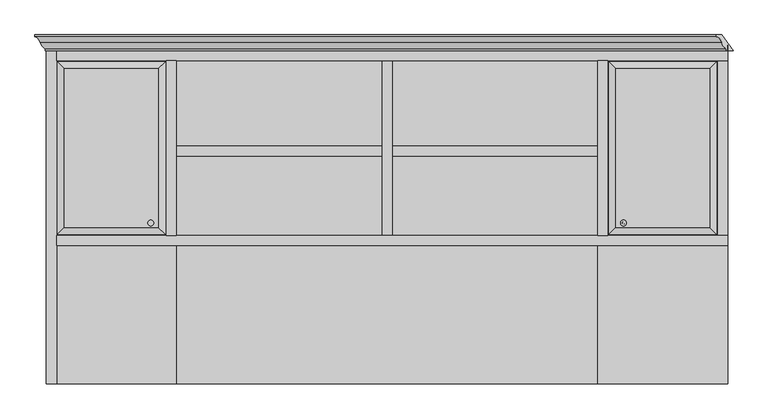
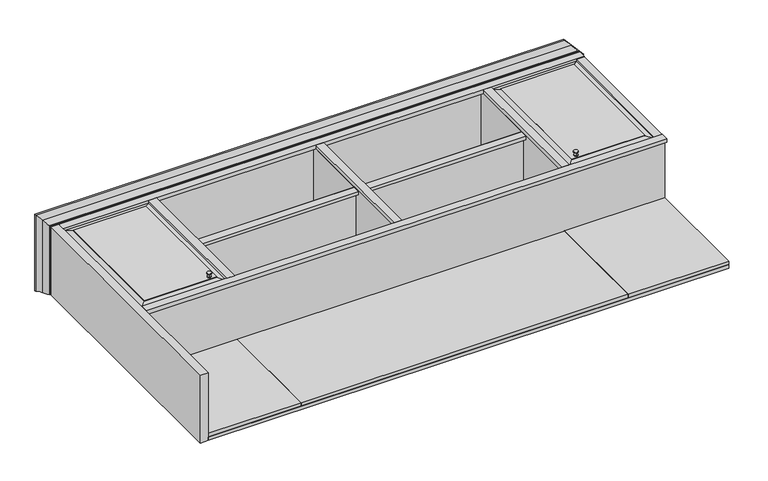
"""IFC4 building model written with IfcOpenShell, lengths in millimetres: proxy geometry, CCN^BRIGHTON_L1 HIGH RISE-4 DOOR SOLID ASSEMBLY."""

from ifc_helpers import new_model, si_unit, point, frame, origin, origin_with_axes, place, context, project, spatial, polyline, circle_curve, ellipse_curve, trimmed, outline, extrude, faceted_brep, source, transform, mapped, element, save
from ifc_brep_helpers import plane_surface, cylinder_surface, revolved_surface, advanced_brep


def generic_models_3481949a(model_context):
    return source(origin(), model_context, "Body", "SolidModel", [
        advanced_brep(
        [(458.7875, 695.525, 427.4), (458.7875, 695.525, 431.4), (458.7875, 720.525, 431.4), (458.7875, 720.525, 427.4), (458.7875, 701.525, 418.3285106), (458.7875, 697.525, 410.4), (458.7875, 718.525, 410.4), (458.7875, 714.525, 418.3285106), (458.7875, 697.525, 406.4), (458.7875, 718.525, 406.4)],
        [
            (0, 1),
            (1, 2, circle_curve(frame((458.7875, 708.025, 431.4), z_axis=(0.0, 0.0, -1.0), x_axis=(0.0, -1.0, 0.0)), 12.5)),
            (2, 3),
            (3, 0, circle_curve(frame((458.7875, 708.025, 427.4), z_axis=(0.0, 0.0, 1.0), x_axis=(0.0, -1.0, 0.0)), 12.5)),
            (0, 4, circle_curve(frame((458.7875, 691.66734, 418.3285106), z_axis=(-1.0, 0.0, 0.0), x_axis=(0.0, -1.0, 0.0)), 9.85766)),
            (4, 5, circle_curve(frame((458.7875, 691.66734, 418.3285106), z_axis=(-1.0, 0.0, 0.0), x_axis=(0.0, -1.0, 0.0)), 9.85766)),
            (5, 6, circle_curve(frame((458.7875, 708.025, 410.4), z_axis=(0.0, 0.0, 1.0), x_axis=(0.0, -1.0, 0.0)), 10.5)),
            (6, 7, circle_curve(frame((458.7875, 724.38266, 418.3285106), z_axis=(-1.0, 0.0, 0.0), x_axis=(0.0, 1.0, 0.0)), 9.85766)),
            (7, 3, circle_curve(frame((458.7875, 724.38266, 418.3285106), z_axis=(-1.0, 0.0, 0.0), x_axis=(0.0, 1.0, 0.0)), 9.85766)),
            (3, 0, circle_curve(frame((458.7875, 708.025, 427.4), z_axis=(0.0, 0.0, -1.0), x_axis=(0.0, -1.0, 0.0)), 12.5)),
            (8, 5),
            (5, 6, circle_curve(frame((458.7875, 708.025, 410.4), z_axis=(0.0, 0.0, -1.0), x_axis=(0.0, -1.0, 0.0)), 10.5)),
            (6, 9),
            (9, 8, circle_curve(frame((458.7875, 708.025, 406.4), z_axis=(0.0, 0.0, 1.0), x_axis=(0.0, -1.0, 0.0)), 10.5)),
            (9, 8, circle_curve(frame((458.7875, 708.025, 406.4), z_axis=(0.0, 0.0, -1.0), x_axis=(0.0, -1.0, 0.0)), 10.5)),
            (2, 1, circle_curve(frame((458.7875, 708.025, 431.4), z_axis=(0.0, 0.0, -1.0), x_axis=(0.0, -1.0, 0.0)), 12.5)),
        ],
        [
            cylinder_surface(frame((458.7875, 708.025, 429.4), z_axis=(0.0, 0.0, 1.0), x_axis=(0.0, -1.0, 0.0)), 12.5),
            revolved_surface(trimmed(ellipse_curve(frame((458.7875, 691.66734, 418.3285106), z_axis=(1.0, 0.0, 0.0), x_axis=(0.0, -1.0, 0.0)), 9.85766, 9.85766), [point((458.7875, 697.525, 410.4))], [point((458.7875, 695.525, 427.4))], True, "CARTESIAN"), (458.7875, 708.025, 418.3285106), (0.0, 0.0, 1.0)),
            cylinder_surface(frame((458.7875, 708.025, 408.4), z_axis=(0.0, 0.0, 1.0), x_axis=(0.0, -1.0, 0.0)), 10.5),
            plane_surface(frame((458.7875, 697.525, 406.4), z_axis=(0.0, 0.0, -1.0), x_axis=(0.0, 1.0, 0.0))),
            revolved_surface(trimmed(ellipse_curve(frame((458.7875, 724.38266, 418.3285106), z_axis=(-1.0, 0.0, 0.0), x_axis=(0.0, 1.0, 0.0)), 9.85766, 9.85766), [point((458.7875, 718.525, 410.4))], [point((458.7875, 720.525, 427.4))], True, "CARTESIAN"), (458.7875, 708.025, 418.3285106), (0.0, 0.0, 1.0)),
            plane_surface(frame((458.7875, 708.025, 431.4), z_axis=(0.0, 0.0, 1.0), x_axis=(0.0, -1.0, 0.0))),
        ],
        [
            (0, [[1, 2, 3, 4]]),
            (1, [[5, 6, 7, 8, 9, 10]]),
            (2, [[11, 12, 13, 14]]),
            (3, [[15, -14]]),
            (2, [[-11, -15, -13, -7]]),
            (4, [[-5, -4, -9, -8, -12, -6]]),
            (0, [[-1, -10, -3, 16]]),
            (5, [[-16, -2]]),
        ],
    ),
        advanced_brep(
        [(2538.4125, 695.525, 427.4), (2538.4125, 695.525, 431.4), (2538.4125, 720.525, 431.4), (2538.4125, 720.525, 427.4), (2538.4125, 701.525, 418.3285106), (2538.4125, 697.525, 410.4), (2538.4125, 718.525, 410.4), (2538.4125, 714.525, 418.3285106), (2538.4125, 697.525, 406.4), (2538.4125, 718.525, 406.4)],
        [
            (0, 1),
            (1, 2, circle_curve(frame((2538.4125, 708.025, 431.4), z_axis=(0.0, 0.0, -1.0), x_axis=(0.0, -1.0, 0.0)), 12.5)),
            (2, 3),
            (3, 0, circle_curve(frame((2538.4125, 708.025, 427.4), z_axis=(0.0, 0.0, 1.0), x_axis=(0.0, -1.0, 0.0)), 12.5)),
            (0, 4, circle_curve(frame((2538.4125, 691.66734, 418.3285106), z_axis=(-1.0, 0.0, 0.0), x_axis=(0.0, -1.0, 0.0)), 9.85766)),
            (4, 5, circle_curve(frame((2538.4125, 691.66734, 418.3285106), z_axis=(-1.0, 0.0, 0.0), x_axis=(0.0, -1.0, 0.0)), 9.85766)),
            (5, 6, circle_curve(frame((2538.4125, 708.025, 410.4), z_axis=(0.0, 0.0, 1.0), x_axis=(0.0, -1.0, 0.0)), 10.5)),
            (6, 7, circle_curve(frame((2538.4125, 724.38266, 418.3285106), z_axis=(-1.0, 0.0, 0.0), x_axis=(0.0, 1.0, 0.0)), 9.85766)),
            (7, 3, circle_curve(frame((2538.4125, 724.38266, 418.3285106), z_axis=(-1.0, 0.0, 0.0), x_axis=(0.0, 1.0, 0.0)), 9.85766)),
            (3, 0, circle_curve(frame((2538.4125, 708.025, 427.4), z_axis=(0.0, 0.0, -1.0), x_axis=(0.0, -1.0, 0.0)), 12.5)),
            (8, 5),
            (5, 6, circle_curve(frame((2538.4125, 708.025, 410.4), z_axis=(0.0, 0.0, -1.0), x_axis=(0.0, -1.0, 0.0)), 10.5)),
            (6, 9),
            (9, 8, circle_curve(frame((2538.4125, 708.025, 406.4), z_axis=(0.0, 0.0, 1.0), x_axis=(0.0, -1.0, 0.0)), 10.5)),
            (9, 8, circle_curve(frame((2538.4125, 708.025, 406.4), z_axis=(0.0, 0.0, -1.0), x_axis=(0.0, -1.0, 0.0)), 10.5)),
            (2, 1, circle_curve(frame((2538.4125, 708.025, 431.4), z_axis=(0.0, 0.0, -1.0), x_axis=(0.0, -1.0, 0.0)), 12.5)),
        ],
        [
            cylinder_surface(frame((2538.4125, 708.025, 429.4), z_axis=(0.0, 0.0, 1.0), x_axis=(0.0, -1.0, 0.0)), 12.5),
            revolved_surface(trimmed(ellipse_curve(frame((2538.4125, 691.66734, 418.3285106), z_axis=(1.0, 0.0, 0.0), x_axis=(0.0, -1.0, 0.0)), 9.85766, 9.85766), [point((2538.4125, 697.525, 410.4))], [point((2538.4125, 695.525, 427.4))], True, "CARTESIAN"), (2538.4125, 708.025, 418.3285106), (0.0, 0.0, 1.0)),
            cylinder_surface(frame((2538.4125, 708.025, 408.4), z_axis=(0.0, 0.0, 1.0), x_axis=(0.0, -1.0, 0.0)), 10.5),
            plane_surface(frame((2538.4125, 697.525, 406.4), z_axis=(0.0, 0.0, -1.0), x_axis=(0.0, 1.0, 0.0))),
            revolved_surface(trimmed(ellipse_curve(frame((2538.4125, 724.38266, 418.3285106), z_axis=(-1.0, 0.0, 0.0), x_axis=(0.0, 1.0, 0.0)), 9.85766, 9.85766), [point((2538.4125, 718.525, 410.4))], [point((2538.4125, 720.525, 427.4))], True, "CARTESIAN"), (2538.4125, 708.025, 418.3285106), (0.0, 0.0, 1.0)),
            plane_surface(frame((2538.4125, 708.025, 431.4), z_axis=(0.0, 0.0, 1.0), x_axis=(0.0, -1.0, 0.0))),
        ],
        [
            (0, [[1, 2, 3, 4]]),
            (1, [[5, 6, 7, 8, 9, 10]]),
            (2, [[11, 12, 13, 14]]),
            (3, [[15, -14]]),
            (2, [[-11, -15, -13, -7]]),
            (4, [[-5, -4, -9, -8, -12, -6]]),
            (0, [[-1, -10, -3, 16]]),
            (5, [[-16, -2]]),
        ],
    ),
        extrude(outline(polyline([(2470.15, 654.05), (2425.7, 654.05), (2425.7, 1422.4), (2470.15, 1422.4), (2470.15, 654.05)])), frame((0.0, 0.0, 384.175), z_axis=(0.0, 0.0, 1.0), x_axis=(1.0, 0.0, 0.0)), (0.0, 0.0, 1.0), 22.225),
        extrude(outline(polyline([(527.05, 1422.4), (571.5, 1422.4), (571.5, 654.05), (527.05, 654.05), (527.05, 1422.4)])), frame((0.0, 0.0, 384.175), z_axis=(0.0, 0.0, 1.0), x_axis=(1.0, 0.0, 0.0)), (0.0, 0.0, 1.0), 22.225),
        extrude(outline(polyline([(2997.2, 1466.85), (0.0, 1466.85), (0.0, 1492.25), (2997.2, 1492.25), (2997.2, 1466.85)])), origin_with_axes(), (0.0, 0.0, 1.0), 406.4),
        extrude(outline(polyline([(44.45, 1422.4), (44.45, 1466.85), (2997.2, 1466.85), (2997.2, 1422.4), (44.45, 1422.4)])), frame((0.0, 0.0, 384.175), z_axis=(0.0, 0.0, 1.0), x_axis=(1.0, 0.0, 0.0)), (0.0, 0.0, 1.0), 22.225),
        extrude(outline(polyline([(1489.075, 654.05), (1476.375, 654.05), (1476.375, 1447.8), (1489.075, 1447.8), (1489.075, 654.05)])), frame((0.0, 0.0, 19.05), z_axis=(0.0, 0.0, 1.0), x_axis=(1.0, 0.0, 0.0)), (0.0, 0.0, 1.0), 365.125),
        extrude(outline(polyline([(2997.2, 0.0), (44.45, 0.0), (44.45, 1466.85), (2997.2, 1466.85), (2997.2, 0.0)])), origin_with_axes(), (0.0, 0.0, 1.0), 19.05),
        extrude(outline(polyline([(2996.40625, 0.79375), (2425.7, 0.79375), (2425.7, 627.85625), (2996.40625, 627.85625), (2996.40625, 0.79375)])), frame((0.0, 0.0, 22.225), z_axis=(0.0, 0.0, 1.0), x_axis=(1.0, 0.0, 0.0)), (0.0, 0.0, 1.0), 19.05),
        extrude(outline(polyline([(2424.90625, 0.79375), (572.29375, 0.79375), (572.29375, 627.85625), (2424.90625, 627.85625), (2424.90625, 0.79375)])), frame((0.0, 0.0, 22.225), z_axis=(0.0, 0.0, 1.0), x_axis=(1.0, 0.0, 0.0)), (0.0, 0.0, 1.0), 19.05),
        extrude(outline(polyline([(571.5, 0.79375), (45.24375, 0.79375), (45.24375, 627.85625), (571.5, 627.85625), (571.5, 0.79375)])), frame((0.0, 0.0, 22.225), z_axis=(0.0, 0.0, 1.0), x_axis=(1.0, 0.0, 0.0)), (0.0, 0.0, 1.0), 19.05),
        extrude(outline(polyline([(44.45, 654.05), (2997.2, 654.05), (2997.2, 628.65), (44.45, 628.65), (44.45, 654.05)])), frame((0.0, 0.0, 19.05), z_axis=(0.0, 0.0, 1.0), x_axis=(1.0, 0.0, 0.0)), (0.0, 0.0, 1.0), 365.125),
        extrude(outline(polyline([(1028.7, 361.95), (1047.75, 381.0), (1047.75, 19.05), (1028.7, 19.05), (1028.7, 361.95)])), frame((572.29375, 0.0, 0.0), z_axis=(1.0, 0.0, 0.0), x_axis=(0.0, 1.0, 0.0)), (0.0, 0.0, 1.0), 903.2875),
        extrude(outline(polyline([(1047.75, 19.05), (1028.7, 19.05), (1028.7, 361.95), (1047.75, 381.0), (1047.75, 19.05)])), frame((1521.61875, 0.0, 0.0), z_axis=(1.0, 0.0, 0.0), x_axis=(0.0, 1.0, 0.0)), (0.0, 0.0, 1.0), 903.2875),
        faceted_brep([(2917.8249993, 688.9750007, 403.2250002), (2949.575, 657.225, 394.7176129), (2949.575, 1419.225, 394.7176129), (2917.8249993, 1387.4749993, 403.2250002), (2917.8249993, 688.9750007, 406.4), (2917.8249993, 1387.4749993, 406.4), (2505.0750007, 688.9750007, 403.2250002), (2473.325, 657.225, 394.7176129), (2505.0750007, 688.9750007, 406.4), (2505.0750007, 1387.4749993, 403.2250002), (2473.325, 1419.225, 394.7176129), (2505.0750007, 1387.4749993, 406.4), (2949.575, 1419.225, 387.35), (2473.325, 1419.225, 387.35), (2473.325, 657.225, 387.35), (2949.575, 657.225, 387.35)], [[[0, 1, 2, 3]], [[4, 0, 3, 5]], [[6, 7, 1, 0]], [[8, 6, 0, 4]], [[9, 10, 7, 6]], [[11, 9, 6, 8]], [[3, 2, 10, 9]], [[5, 3, 9, 11]], [[10, 2, 12, 13]], [[7, 10, 13, 14]], [[2, 1, 15, 12]], [[1, 7, 14, 15]], [[4, 5, 11, 8]], [[15, 14, 13, 12]]]),
        advanced_brep(
        [(23.5654847, 1466.85, 0.0), (-25.3440118, 1536.7, 0.0), (-25.3440118, 1536.7, 431.7440118), (23.5654847, 1466.85, 382.8345153), (-5.5626, 1466.85, 0.0), (-5.5626, 1473.5900246, 0.0), (-26.7133719, 1502.7938145, 0.0), (-50.8, 1528.7752, 0.0), (-50.8, 1536.7, 0.0), (3020.7654847, 1466.85, 382.8345153), (2991.6374, 1466.85, 411.9626), (-5.5626, 1466.85, 411.9626), (2971.8559882, 1536.7, 431.7440118), (2946.4, 1536.7, 457.2), (2946.4, 1528.7752, 457.2), (2970.4866281, 1502.7938145, 433.1133719), (2991.6374, 1473.5900246, 411.9626), (-5.5626, 1473.5900246, 411.9626), (-26.7133719, 1502.7938145, 433.1133719), (-50.8, 1528.7752, 457.2), (-50.8, 1536.7, 457.2)],
        [
            (0, 1),
            (1, 2),
            (2, 3),
            (3, 0),
            (0, 4),
            (4, 5),
            (5, 6, circle_curve(frame((22.3266, 1516.0498, 0.0), z_axis=(0.0, 0.0, -1.0), x_axis=(-1.0, 0.0, 0.0)), 50.8)),
            (6, 7, circle_curve(frame((-63.4933509, 1492.8518254, 0.0), z_axis=(0.0, 0.0, 1.0), x_axis=(-1.0, 0.0, 0.0)), 38.1)),
            (7, 8),
            (8, 1),
            (3, 9),
            (9, 10),
            (10, 11),
            (11, 4),
            (9, 12),
            (12, 13),
            (13, 14),
            (14, 15, ellipse_curve(frame((2933.7066491, 1492.8518254, 469.8933509), z_axis=(-0.7071067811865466, 0.0, -0.7071067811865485), x_axis=(-0.7071067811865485, 0.0, 0.7071067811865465)), 53.8815367, 38.1)),
            (15, 16, ellipse_curve(frame((3019.5266, 1516.0498, 384.0734), z_axis=(0.7071067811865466, 0.0, 0.7071067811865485), x_axis=(-0.7071067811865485, 0.0, 0.7071067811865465)), 71.842049, 50.8)),
            (16, 10),
            (17, 18, ellipse_curve(frame((22.3266, 1516.0498, 384.0734), z_axis=(-0.7071067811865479, 0.0, -0.7071067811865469), x_axis=(0.7071067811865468, 0.0, -0.7071067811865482)), 71.842049, 50.8)),
            (18, 6),
            (5, 17),
            (11, 17),
            (19, 20),
            (20, 8),
            (7, 19),
            (18, 19, ellipse_curve(frame((-63.4933509, 1492.8518254, 469.8933509), z_axis=(0.7071067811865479, 0.0, 0.7071067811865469), x_axis=(0.7071067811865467, 0.0, -0.7071067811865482)), 53.8815367, 38.1)),
            (16, 17),
            (2, 12),
            (15, 18),
            (14, 19),
            (20, 13),
        ],
        [
            plane_surface(frame((-25.3440118, 1536.7, 431.7440118), z_axis=(0.8191520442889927, 0.5735764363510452, 0.0), x_axis=(0.4975428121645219, -0.710564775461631, -0.4975428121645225))),
            plane_surface(frame((-50.8, 1536.7, 0.0), z_axis=(0.0, 0.0, -1.0), x_axis=(-1.0, 0.0, 0.0))),
            plane_surface(frame((1473.2, 1466.85, 228.6), z_axis=(0.0, -1.0, 0.0), x_axis=(0.0, 0.0, -1.0))),
            plane_surface(frame((2971.8, 1492.25, 431.8), z_axis=(0.7071067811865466, 0.0, 0.7071067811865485), x_axis=(0.7071067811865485, 0.0, -0.7071067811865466))),
            cylinder_surface(frame((22.3266, 1516.0498, 384.0734), z_axis=(0.0, 0.0, -1.0), x_axis=(-1.0, 0.0, 0.0)), 50.8),
            plane_surface(frame((-5.5626, 1466.85, 411.9626), z_axis=(-1.0, 0.0, 0.0), x_axis=(0.0, 1.0, 0.0))),
            plane_surface(frame((-50.8, 1528.7752, 457.2), z_axis=(-1.0, 0.0, 0.0), x_axis=(0.0, 1.0, 0.0))),
            revolved_surface(polyline([(-101.5933509, 1492.8518254, 0.0), (-101.5933509, 1492.8518254, 507.9933508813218)]), (-63.4933509, 1492.8518254, 469.8933509), (0.0, 0.0, -1.0)),
            plane_surface(frame((2997.2, 1473.5900246, 411.9626), z_axis=(0.0, 0.0, 1.0), x_axis=(0.0, -1.0, 0.0))),
            plane_surface(frame((2997.2, 1500.505, 406.4), z_axis=(0.0, 0.5735764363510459, -0.819152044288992), x_axis=(0.0, 0.819152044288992, 0.5735764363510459))),
            cylinder_surface(frame((2997.2, 1516.0498, 384.0734), z_axis=(-1.0000000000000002, 0.0, 0.0), x_axis=(0.0, 0.260944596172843, -0.9653537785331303)), 50.8),
            revolved_surface(polyline([(-101.59335088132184, 1502.7938145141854, 433.11337193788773), (2971.806649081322, 1502.7938145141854, 433.11337193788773)]), (2997.2, 1492.8518254, 469.8933509), (-1.0, 0.0, 0.0)),
            plane_surface(frame((1473.2, 1536.7, 228.6), z_axis=(0.0, 1.0, 0.0), x_axis=(0.0, 0.0, 1.0))),
            plane_surface(frame((-50.8, 1492.25, 457.2), z_axis=(0.0, 0.0, 1.0), x_axis=(1.0, 0.0, 0.0))),
        ],
        [
            (0, [[1, 2, 3, 4]]),
            (1, [[-1, 5, 6, 7, 8, 9, 10]]),
            (2, [[-4, 11, 12, 13, 14, -5]]),
            (3, [[-12, 15, 16, 17, 18, 19, 20]]),
            (4, [[21, 22, -7, 23]]),
            (5, [[24, -23, -6, -14]]),
            (6, [[25, 26, -9, 27]]),
            (7, [[28, -27, -8, -22]]),
            (8, [[-13, -20, 29, -24]]),
            (9, [[30, -15, -11, -3]]),
            (10, [[-29, -19, 31, -21]]),
            (11, [[-31, -18, 32, -28]]),
            (12, [[33, -16, -30, -2, -10, -26]]),
            (13, [[-32, -17, -33, -25]]),
        ],
    ),
        extrude(outline(polyline([(571.5, 654.05), (552.45, 654.05), (552.45, 1447.8), (571.5, 1447.8), (571.5, 654.05)])), frame((0.0, 0.0, 19.05), z_axis=(0.0, 0.0, 1.0), x_axis=(1.0, 0.0, 0.0)), (0.0, 0.0, 1.0), 365.125),
        extrude(outline(polyline([(2978.15, 1466.85), (2978.15, 1447.8), (63.5, 1447.8), (63.5, 1466.85), (2978.15, 1466.85)])), frame((0.0, 0.0, 19.05), z_axis=(0.0, 0.0, 1.0), x_axis=(1.0, 0.0, 0.0)), (0.0, 0.0, 1.0), 365.125),
        extrude(outline(polyline([(2997.2, 609.6), (44.45, 609.6), (44.45, 654.05), (2997.2, 654.05), (2997.2, 609.6)])), frame((0.0, 0.0, 384.175), z_axis=(0.0, 0.0, 1.0), x_axis=(1.0, 0.0, 0.0)), (0.0, 0.0, 1.0), 22.225),
        extrude(outline(polyline([(44.45, 1466.85), (44.45, 0.0), (0.0, 0.0), (0.0, 1466.85), (44.45, 1466.85)])), origin_with_axes(), (0.0, 0.0, 1.0), 406.4),
        extrude(outline(polyline([(2425.7, 1447.8), (2444.75, 1447.8), (2444.75, 654.05), (2425.7, 654.05), (2425.7, 1447.8)])), frame((0.0, 0.0, 19.05), z_axis=(0.0, 0.0, 1.0), x_axis=(1.0, 0.0, 0.0)), (0.0, 0.0, 1.0), 365.125),
        extrude(outline(polyline([(1520.825, 654.05), (1508.125, 654.05), (1508.125, 1447.8), (1520.825, 1447.8), (1520.825, 654.05)])), frame((0.0, 0.0, 19.05), z_axis=(0.0, 0.0, 1.0), x_axis=(1.0, 0.0, 0.0)), (0.0, 0.0, 1.0), 365.125),
        extrude(outline(polyline([(2997.2, 1422.4), (2997.2, 654.05), (2952.75, 654.05), (2952.75, 1422.4), (2997.2, 1422.4)])), frame((0.0, 0.0, 384.175), z_axis=(0.0, 0.0, 1.0), x_axis=(1.0, 0.0, 0.0)), (0.0, 0.0, 1.0), 19.05),
        extrude(outline(polyline([(1028.7, 361.95), (1003.3, 361.95), (1003.3, 381.0), (1047.75, 381.0), (1028.7, 361.95)])), frame((1521.61875, 0.0, 0.0), z_axis=(1.0, 0.0, 0.0), x_axis=(0.0, 1.0, 0.0)), (0.0, 0.0, 1.0), 903.2875),
        extrude(outline(polyline([(1028.7, 361.95), (1003.3, 361.95), (1003.3, 381.0), (1047.75, 381.0), (1028.7, 361.95)])), frame((572.29375, 0.0, 0.0), z_axis=(1.0, 0.0, 0.0), x_axis=(0.0, 1.0, 0.0)), (0.0, 0.0, 1.0), 903.2875),
        extrude(outline(polyline([(1520.825, 1422.4), (1520.825, 654.05), (1476.375, 654.05), (1476.375, 1422.4), (1520.825, 1422.4)])), frame((0.0, 0.0, 384.175), z_axis=(0.0, 0.0, 1.0), x_axis=(1.0, 0.0, 0.0)), (0.0, 0.0, 1.0), 22.225),
        faceted_brep([(492.125, 688.975, 403.225), (523.875, 657.225, 394.7176131), (523.875, 1419.225, 394.7176131), (492.125, 1387.475, 403.225), (492.125, 688.975, 406.4), (492.125, 1387.475, 406.4), (79.375, 688.975, 403.225), (47.625, 657.225, 394.7176131), (79.375, 688.975, 406.4), (79.375, 1387.475, 403.225), (47.625, 1419.225, 394.7176131), (79.375, 1387.475, 406.4), (523.875, 1419.225, 387.35), (47.625, 1419.225, 387.35), (523.875, 657.225, 387.35), (47.625, 657.225, 387.35)], [[[0, 1, 2, 3]], [[4, 0, 3, 5]], [[6, 7, 1, 0]], [[8, 6, 0, 4]], [[9, 10, 7, 6]], [[11, 9, 6, 8]], [[3, 2, 10, 9]], [[5, 3, 9, 11]], [[10, 2, 12, 13]], [[2, 1, 14, 12]], [[1, 7, 15, 14]], [[7, 10, 13, 15]], [[4, 5, 11, 8]], [[15, 13, 12, 14]]]),
        extrude(outline(polyline([(63.5, 1466.85), (63.5, 654.05), (44.45, 654.05), (44.45, 1466.85), (63.5, 1466.85)])), frame((0.0, 0.0, 19.05), z_axis=(0.0, 0.0, 1.0), x_axis=(1.0, 0.0, 0.0)), (0.0, 0.0, 1.0), 365.125),
    ])


if __name__ == "__main__":
    model = new_model("IFC4")
    model_context = context("Model", 3, world=origin())
    ifc_project = project(units=[si_unit("LENGTHUNIT", "METRE", prefix="MILLI")], contexts=[model_context])
    site = spatial("IfcSite", under=ifc_project)
    building = spatial("IfcBuilding", under=site)
    placement = place(None, origin())
    generic_models_shape = generic_models_3481949a(model_context)
    element("IfcBuildingElementProxy", 1, Name="CCN^BRIGHTON_L1 HIGH RISE-4 DOOR SOLID ASSEMBLY", ObjectType="CCN^BRIGHTON_L1 HIGH RISE-4 DOOR SOLID ASSEMBLY", at=placement, inside=building, context=model_context, shape_type="MappedRepresentation", body=[
        mapped(generic_models_shape, transform((0.0, 0.0, 0.0), x_axis=(1.0, 0.0, 0.0), y_axis=(0.0, 1.0, 0.0), z_axis=(0.0, 0.0, 1.0))),
    ])
    save(model, "model.ifc")
